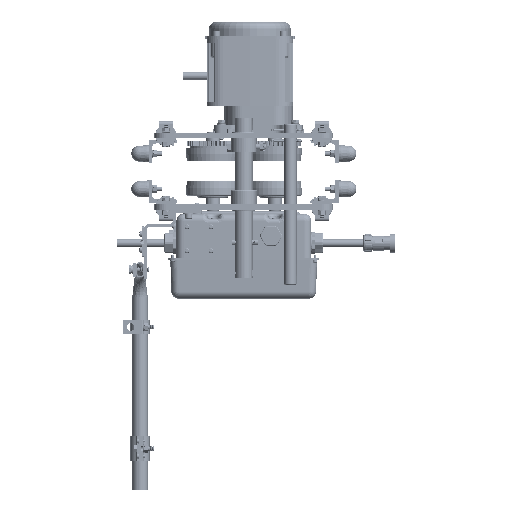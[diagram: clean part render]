
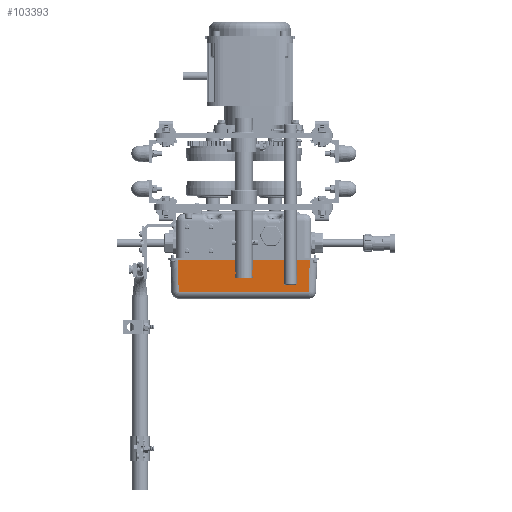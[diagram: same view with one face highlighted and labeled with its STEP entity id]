
A CAD part, front view. The second image highlights one B-rep face of the part: STEP entity #103393.
In plain terms, the highlighted planar face has unit normal (0, -0.999, -0.035) as drawn and (-0.035, -0.999, 0) by its records, which use the part's own axes.
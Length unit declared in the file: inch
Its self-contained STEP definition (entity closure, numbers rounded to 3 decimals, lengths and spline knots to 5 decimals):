
#5607 = DIRECTION ( 'NONE',  ( -0.035, -0.999, 0. ) ) ;
#5662 = LINE ( 'NONE', #140402, #58628 ) ;
#9533 = LINE ( 'NONE', #63187, #110296 ) ;
#12575 = LINE ( 'NONE', #53926, #120964 ) ;
#15836 = LINE ( 'NONE', #147965, #123461 ) ;
#19952 = VERTEX_POINT ( 'NONE', #124781 ) ;
#27754 = EDGE_LOOP ( 'NONE', ( #87139, #33596, #122766, #164245 ) ) ;
#31155 = PLANE ( 'NONE',  #148843 ) ;
#32008 = DIRECTION ( 'NONE',  ( 0.999, -0.035, 0. ) ) ;
#32760 = CARTESIAN_POINT ( 'NONE',  ( -2.22259, 0.46994, 0.73446 ) ) ;
#33596 = ORIENTED_EDGE ( 'NONE', *, *, #89406, .T. ) ;
#39823 = VERTEX_POINT ( 'NONE', #32760 ) ;
#42578 = VERTEX_POINT ( 'NONE', #94724 ) ;
#46079 = FACE_OUTER_BOUND ( 'NONE', #27754, .T. ) ;
#53926 = CARTESIAN_POINT ( 'NONE',  ( -0.03937, 0.3937, 10.47244 ) ) ;
#54499 = VERTEX_POINT ( 'NONE', #119646 ) ;
#58628 = VECTOR ( 'NONE', #73428, 39.37008 ) ;
#63187 = CARTESIAN_POINT ( 'NONE',  ( -2.69872, 0.48657, 9.7379 ) ) ;
#73428 = DIRECTION ( 'NONE',  ( 0., 0., -1. ) ) ;
#87139 = ORIENTED_EDGE ( 'NONE', *, *, #171209, .F. ) ;
#89406 = EDGE_CURVE ( 'NONE', #19952, #42578, #9533, .T. ) ;
#90526 = DIRECTION ( 'NONE',  ( -0.999, 0.035, -0.035 ) ) ;
#94724 = CARTESIAN_POINT ( 'NONE',  ( -2.22259, 0.46994, 9.75453 ) ) ;
#95675 = EDGE_CURVE ( 'NONE', #42578, #39823, #5662, .T. ) ;
#97231 = CARTESIAN_POINT ( 'NONE',  ( -1.0803, 0.43005, 10.47244 ) ) ;
#103393 = ADVANCED_FACE ( 'NONE', ( #46079 ), #31155, .T. ) ;
#103728 = EDGE_CURVE ( 'NONE', #39823, #54499, #15836, .T. ) ;
#110296 = VECTOR ( 'NONE', #90526, 39.37008 ) ;
#119646 = CARTESIAN_POINT ( 'NONE',  ( -0.03937, 0.3937, 0.65822 ) ) ;
#120964 = VECTOR ( 'NONE', #146442, 39.37008 ) ;
#122766 = ORIENTED_EDGE ( 'NONE', *, *, #95675, .T. ) ;
#123461 = VECTOR ( 'NONE', #133885, 39.37008 ) ;
#124781 = CARTESIAN_POINT ( 'NONE',  ( -0.03937, 0.3937, 9.83076 ) ) ;
#133885 = DIRECTION ( 'NONE',  ( 0.999, -0.035, -0.035 ) ) ;
#140402 = CARTESIAN_POINT ( 'NONE',  ( -2.22259, 0.46994, 10.47244 ) ) ;
#146442 = DIRECTION ( 'NONE',  ( 0., 0., -1. ) ) ;
#147965 = CARTESIAN_POINT ( 'NONE',  ( -1.42092, 0.44195, 0.70647 ) ) ;
#148843 = AXIS2_PLACEMENT_3D ( 'NONE', #97231, #5607, #32008 ) ;
#164245 = ORIENTED_EDGE ( 'NONE', *, *, #103728, .T. ) ;
#171209 = EDGE_CURVE ( 'NONE', #19952, #54499, #12575, .T. ) ;
